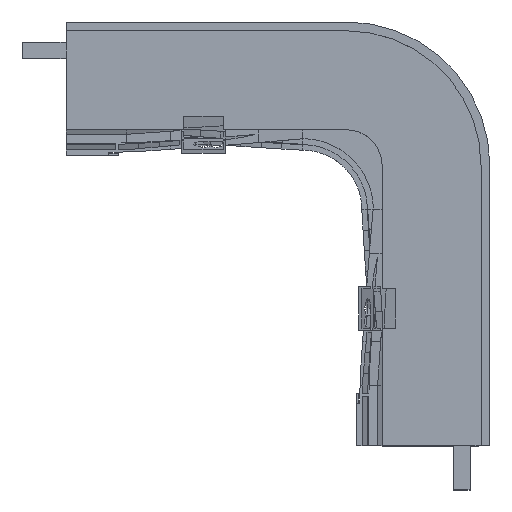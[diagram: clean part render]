
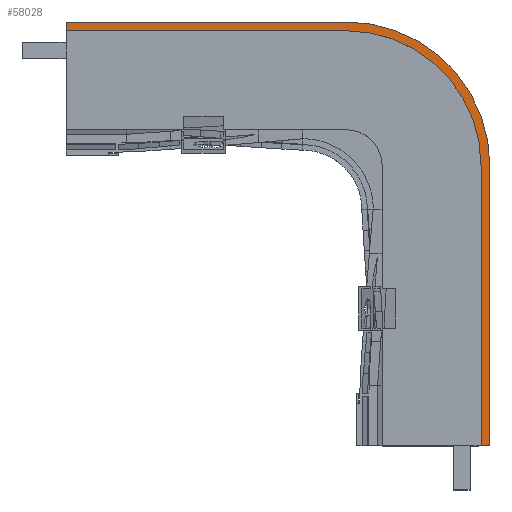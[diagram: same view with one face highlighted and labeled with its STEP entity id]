
A CAD part, top view. The second image highlights one B-rep face of the part: STEP entity #58028.
In plain terms, the highlighted planar face has unit normal (0, 0, 1).
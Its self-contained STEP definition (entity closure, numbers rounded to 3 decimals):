
#22 = VERTEX_POINT('',#23);
#23 = CARTESIAN_POINT('',(117.,178.1,32.5));
#32 = PLANE('',#33);
#33 = AXIS2_PLACEMENT_3D('',#34,#35,#36);
#34 = CARTESIAN_POINT('',(117.,101.,-1.));
#35 = DIRECTION('',(1.,0.,-0.));
#36 = DIRECTION('',(0.,0.,1.));
#44 = PLANE('',#45);
#45 = AXIS2_PLACEMENT_3D('',#46,#47,#48);
#46 = CARTESIAN_POINT('',(168.,178.1,28.));
#47 = DIRECTION('',(0.,-1.,0.));
#48 = DIRECTION('',(-1.,0.,0.));
#56 = EDGE_CURVE('',#22,#57,#59,.T.);
#57 = VERTEX_POINT('',#58);
#58 = CARTESIAN_POINT('',(117.,176.5,32.5));
#59 = SURFACE_CURVE('',#60,(#64,#71),.PCURVE_S1.);
#60 = LINE('',#61,#62);
#61 = CARTESIAN_POINT('',(117.,49.041,32.5));
#62 = VECTOR('',#63,1.);
#63 = DIRECTION('',(0.,-1.,0.));
#64 = PCURVE('',#32,#65);
#65 = DEFINITIONAL_REPRESENTATION('',(#66),#70);
#66 = LINE('',#67,#68);
#67 = CARTESIAN_POINT('',(33.5,51.959));
#68 = VECTOR('',#69,1.);
#69 = DIRECTION('',(0.,1.));
#70 = ( GEOMETRIC_REPRESENTATION_CONTEXT(2) 
PARAMETRIC_REPRESENTATION_CONTEXT() REPRESENTATION_CONTEXT('2D SPACE',''
  ) );
#71 = PCURVE('',#72,#77);
#72 = PLANE('',#73);
#73 = AXIS2_PLACEMENT_3D('',#74,#75,#76);
#74 = CARTESIAN_POINT('',(0.,-2.917,32.5));
#75 = DIRECTION('',(0.,0.,1.));
#76 = DIRECTION('',(1.,0.,-0.));
#77 = DEFINITIONAL_REPRESENTATION('',(#78),#82);
#78 = LINE('',#79,#80);
#79 = CARTESIAN_POINT('',(117.,51.959));
#80 = VECTOR('',#81,1.);
#81 = DIRECTION('',(0.,-1.));
#82 = ( GEOMETRIC_REPRESENTATION_CONTEXT(2) 
PARAMETRIC_REPRESENTATION_CONTEXT() REPRESENTATION_CONTEXT('2D SPACE',''
  ) );
#100 = PLANE('',#101);
#101 = AXIS2_PLACEMENT_3D('',#102,#103,#104);
#102 = CARTESIAN_POINT('',(168.,176.5,27.));
#103 = DIRECTION('',(0.,-1.,0.));
#104 = DIRECTION('',(-1.,0.,0.));
#1140 = CYLINDRICAL_SURFACE('',#1141,26.1);
#1141 = AXIS2_PLACEMENT_3D('',#1142,#1143,#1144);
#1142 = CARTESIAN_POINT('',(168.,152.,28.));
#1143 = DIRECTION('',(-0.,-0.,-1.));
#1144 = DIRECTION('',(1.,0.,-0.));
#1201 = PLANE('',#1202);
#1202 = AXIS2_PLACEMENT_3D('',#1203,#1204,#1205);
#1203 = CARTESIAN_POINT('',(117.,101.,-1.));
#1204 = DIRECTION('',(-0.,1.,0.));
#1205 = DIRECTION('',(0.,0.,1.));
#1254 = PLANE('',#1255);
#1255 = AXIS2_PLACEMENT_3D('',#1256,#1257,#1258);
#1256 = CARTESIAN_POINT('',(194.1,-178.1,28.));
#1257 = DIRECTION('',(-1.,0.,0.));
#1258 = DIRECTION('',(0.,1.,0.));
#1271 = VERTEX_POINT('',#1272);
#1272 = CARTESIAN_POINT('',(194.1,101.,32.5));
#1293 = EDGE_CURVE('',#1271,#1294,#1296,.T.);
#1294 = VERTEX_POINT('',#1295);
#1295 = CARTESIAN_POINT('',(194.1,152.,32.5));
#1296 = SURFACE_CURVE('',#1297,(#1301,#1308),.PCURVE_S1.);
#1297 = LINE('',#1298,#1299);
#1298 = CARTESIAN_POINT('',(194.1,-178.1,32.5));
#1299 = VECTOR('',#1300,1.);
#1300 = DIRECTION('',(0.,1.,0.));
#1301 = PCURVE('',#1254,#1302);
#1302 = DEFINITIONAL_REPRESENTATION('',(#1303),#1307);
#1303 = LINE('',#1304,#1305);
#1304 = CARTESIAN_POINT('',(0.,-4.5));
#1305 = VECTOR('',#1306,1.);
#1306 = DIRECTION('',(1.,0.));
#1307 = ( GEOMETRIC_REPRESENTATION_CONTEXT(2) 
PARAMETRIC_REPRESENTATION_CONTEXT() REPRESENTATION_CONTEXT('2D SPACE',''
  ) );
#1308 = PCURVE('',#72,#1309);
#1309 = DEFINITIONAL_REPRESENTATION('',(#1310),#1314);
#1310 = LINE('',#1311,#1312);
#1311 = CARTESIAN_POINT('',(194.1,-175.183));
#1312 = VECTOR('',#1313,1.);
#1313 = DIRECTION('',(0.,1.));
#1314 = ( GEOMETRIC_REPRESENTATION_CONTEXT(2) 
PARAMETRIC_REPRESENTATION_CONTEXT() REPRESENTATION_CONTEXT('2D SPACE',''
  ) );
#1493 = VERTEX_POINT('',#1494);
#1494 = CARTESIAN_POINT('',(192.5,101.,32.5));
#1508 = PLANE('',#1509);
#1509 = AXIS2_PLACEMENT_3D('',#1510,#1511,#1512);
#1510 = CARTESIAN_POINT('',(192.5,-176.5,27.));
#1511 = DIRECTION('',(-1.,0.,0.));
#1512 = DIRECTION('',(0.,1.,0.));
#1520 = EDGE_CURVE('',#1493,#1271,#1521,.T.);
#1521 = SURFACE_CURVE('',#1522,(#1526,#1533),.PCURVE_S1.);
#1522 = LINE('',#1523,#1524);
#1523 = CARTESIAN_POINT('',(58.5,101.,32.5));
#1524 = VECTOR('',#1525,1.);
#1525 = DIRECTION('',(1.,0.,-0.));
#1526 = PCURVE('',#1201,#1527);
#1527 = DEFINITIONAL_REPRESENTATION('',(#1528),#1532);
#1528 = LINE('',#1529,#1530);
#1529 = CARTESIAN_POINT('',(33.5,-58.5));
#1530 = VECTOR('',#1531,1.);
#1531 = DIRECTION('',(0.,1.));
#1532 = ( GEOMETRIC_REPRESENTATION_CONTEXT(2) 
PARAMETRIC_REPRESENTATION_CONTEXT() REPRESENTATION_CONTEXT('2D SPACE',''
  ) );
#1533 = PCURVE('',#72,#1534);
#1534 = DEFINITIONAL_REPRESENTATION('',(#1535),#1539);
#1535 = LINE('',#1536,#1537);
#1536 = CARTESIAN_POINT('',(58.5,103.917));
#1537 = VECTOR('',#1538,1.);
#1538 = DIRECTION('',(1.,0.));
#1539 = ( GEOMETRIC_REPRESENTATION_CONTEXT(2) 
PARAMETRIC_REPRESENTATION_CONTEXT() REPRESENTATION_CONTEXT('2D SPACE',''
  ) );
#56417 = VERTEX_POINT('',#56418);
#56418 = CARTESIAN_POINT('',(192.5,152.,32.5));
#56432 = CYLINDRICAL_SURFACE('',#56433,24.5);
#56433 = AXIS2_PLACEMENT_3D('',#56434,#56435,#56436);
#56434 = CARTESIAN_POINT('',(168.,152.,27.));
#56435 = DIRECTION('',(-0.,-0.,-1.));
#56436 = DIRECTION('',(1.,0.,-0.));
#56466 = EDGE_CURVE('',#56417,#1493,#56467,.T.);
#56467 = SURFACE_CURVE('',#56468,(#56472,#56479),.PCURVE_S1.);
#56468 = LINE('',#56469,#56470);
#56469 = CARTESIAN_POINT('',(192.5,-89.709,32.5));
#56470 = VECTOR('',#56471,1.);
#56471 = DIRECTION('',(0.,-1.,0.));
#56472 = PCURVE('',#1508,#56473);
#56473 = DEFINITIONAL_REPRESENTATION('',(#56474),#56478);
#56474 = LINE('',#56475,#56476);
#56475 = CARTESIAN_POINT('',(86.791,-5.5));
#56476 = VECTOR('',#56477,1.);
#56477 = DIRECTION('',(-1.,0.));
#56478 = ( GEOMETRIC_REPRESENTATION_CONTEXT(2) 
PARAMETRIC_REPRESENTATION_CONTEXT() REPRESENTATION_CONTEXT('2D SPACE',''
  ) );
#56479 = PCURVE('',#72,#56480);
#56480 = DEFINITIONAL_REPRESENTATION('',(#56481),#56485);
#56481 = LINE('',#56482,#56483);
#56482 = CARTESIAN_POINT('',(192.5,-86.791));
#56483 = VECTOR('',#56484,1.);
#56484 = DIRECTION('',(0.,-1.));
#56485 = ( GEOMETRIC_REPRESENTATION_CONTEXT(2) 
PARAMETRIC_REPRESENTATION_CONTEXT() REPRESENTATION_CONTEXT('2D SPACE',''
  ) );
#56490 = EDGE_CURVE('',#56491,#56417,#56493,.T.);
#56491 = VERTEX_POINT('',#56492);
#56492 = CARTESIAN_POINT('',(168.,176.5,32.5));
#56493 = SURFACE_CURVE('',#56494,(#56499,#56506),.PCURVE_S1.);
#56494 = CIRCLE('',#56495,24.5);
#56495 = AXIS2_PLACEMENT_3D('',#56496,#56497,#56498);
#56496 = CARTESIAN_POINT('',(168.,152.,32.5));
#56497 = DIRECTION('',(0.,0.,-1.));
#56498 = DIRECTION('',(1.,0.,0.));
#56499 = PCURVE('',#56432,#56500);
#56500 = DEFINITIONAL_REPRESENTATION('',(#56501),#56505);
#56501 = LINE('',#56502,#56503);
#56502 = CARTESIAN_POINT('',(0.,-5.5));
#56503 = VECTOR('',#56504,1.);
#56504 = DIRECTION('',(1.,-0.));
#56505 = ( GEOMETRIC_REPRESENTATION_CONTEXT(2) 
PARAMETRIC_REPRESENTATION_CONTEXT() REPRESENTATION_CONTEXT('2D SPACE',''
  ) );
#56506 = PCURVE('',#72,#56507);
#56507 = DEFINITIONAL_REPRESENTATION('',(#56508),#56516);
#56508 = ( BOUNDED_CURVE() B_SPLINE_CURVE(2,(#56509,#56510,#56511,#56512
    ,#56513,#56514,#56515),.UNSPECIFIED.,.T.,.F.) 
B_SPLINE_CURVE_WITH_KNOTS((1,2,2,2,2,1),(-2.094,0.,
    2.094,4.189,6.283,8.378),
.UNSPECIFIED.) CURVE() GEOMETRIC_REPRESENTATION_ITEM() 
RATIONAL_B_SPLINE_CURVE((1.,0.5,1.,0.5,1.,0.5,1.)) REPRESENTATION_ITEM(
  '') );
#56509 = CARTESIAN_POINT('',(192.5,154.917));
#56510 = CARTESIAN_POINT('',(192.5,112.482));
#56511 = CARTESIAN_POINT('',(155.75,133.7));
#56512 = CARTESIAN_POINT('',(119.,154.917));
#56513 = CARTESIAN_POINT('',(155.75,176.135));
#56514 = CARTESIAN_POINT('',(192.5,197.352));
#56515 = CARTESIAN_POINT('',(192.5,154.917));
#56516 = ( GEOMETRIC_REPRESENTATION_CONTEXT(2) 
PARAMETRIC_REPRESENTATION_CONTEXT() REPRESENTATION_CONTEXT('2D SPACE',''
  ) );
#56631 = VERTEX_POINT('',#56632);
#56632 = CARTESIAN_POINT('',(168.,178.1,32.5));
#56653 = EDGE_CURVE('',#1294,#56631,#56654,.T.);
#56654 = SURFACE_CURVE('',#56655,(#56660,#56667),.PCURVE_S1.);
#56655 = CIRCLE('',#56656,26.1);
#56656 = AXIS2_PLACEMENT_3D('',#56657,#56658,#56659);
#56657 = CARTESIAN_POINT('',(168.,152.,32.5));
#56658 = DIRECTION('',(0.,0.,1.));
#56659 = DIRECTION('',(1.,0.,-0.));
#56660 = PCURVE('',#1140,#56661);
#56661 = DEFINITIONAL_REPRESENTATION('',(#56662),#56666);
#56662 = LINE('',#56663,#56664);
#56663 = CARTESIAN_POINT('',(6.283,-4.5));
#56664 = VECTOR('',#56665,1.);
#56665 = DIRECTION('',(-1.,0.));
#56666 = ( GEOMETRIC_REPRESENTATION_CONTEXT(2) 
PARAMETRIC_REPRESENTATION_CONTEXT() REPRESENTATION_CONTEXT('2D SPACE',''
  ) );
#56667 = PCURVE('',#72,#56668);
#56668 = DEFINITIONAL_REPRESENTATION('',(#56669),#56673);
#56669 = CIRCLE('',#56670,26.1);
#56670 = AXIS2_PLACEMENT_2D('',#56671,#56672);
#56671 = CARTESIAN_POINT('',(168.,154.917));
#56672 = DIRECTION('',(1.,0.));
#56673 = ( GEOMETRIC_REPRESENTATION_CONTEXT(2) 
PARAMETRIC_REPRESENTATION_CONTEXT() REPRESENTATION_CONTEXT('2D SPACE',''
  ) );
#58008 = EDGE_CURVE('',#57,#56491,#58009,.T.);
#58009 = SURFACE_CURVE('',#58010,(#58014,#58021),.PCURVE_S1.);
#58010 = LINE('',#58011,#58012);
#58011 = CARTESIAN_POINT('',(84.,176.5,32.5));
#58012 = VECTOR('',#58013,1.);
#58013 = DIRECTION('',(1.,0.,-0.));
#58014 = PCURVE('',#100,#58015);
#58015 = DEFINITIONAL_REPRESENTATION('',(#58016),#58020);
#58016 = LINE('',#58017,#58018);
#58017 = CARTESIAN_POINT('',(84.,-5.5));
#58018 = VECTOR('',#58019,1.);
#58019 = DIRECTION('',(-1.,0.));
#58020 = ( GEOMETRIC_REPRESENTATION_CONTEXT(2) 
PARAMETRIC_REPRESENTATION_CONTEXT() REPRESENTATION_CONTEXT('2D SPACE',''
  ) );
#58021 = PCURVE('',#72,#58022);
#58022 = DEFINITIONAL_REPRESENTATION('',(#58023),#58027);
#58023 = LINE('',#58024,#58025);
#58024 = CARTESIAN_POINT('',(84.,179.417));
#58025 = VECTOR('',#58026,1.);
#58026 = DIRECTION('',(1.,0.));
#58027 = ( GEOMETRIC_REPRESENTATION_CONTEXT(2) 
PARAMETRIC_REPRESENTATION_CONTEXT() REPRESENTATION_CONTEXT('2D SPACE',''
  ) );
#58028 = ADVANCED_FACE('',(#58029),#72,.T.);
#58029 = FACE_BOUND('',#58030,.T.);
#58030 = EDGE_LOOP('',(#58031,#58032,#58033,#58034,#58055,#58056,#58057,
    #58058));
#58031 = ORIENTED_EDGE('',*,*,#1520,.T.);
#58032 = ORIENTED_EDGE('',*,*,#1293,.T.);
#58033 = ORIENTED_EDGE('',*,*,#56653,.T.);
#58034 = ORIENTED_EDGE('',*,*,#58035,.T.);
#58035 = EDGE_CURVE('',#56631,#22,#58036,.T.);
#58036 = SURFACE_CURVE('',#58037,(#58041,#58048),.PCURVE_S1.);
#58037 = LINE('',#58038,#58039);
#58038 = CARTESIAN_POINT('',(168.,178.1,32.5));
#58039 = VECTOR('',#58040,1.);
#58040 = DIRECTION('',(-1.,0.,0.));
#58041 = PCURVE('',#72,#58042);
#58042 = DEFINITIONAL_REPRESENTATION('',(#58043),#58047);
#58043 = LINE('',#58044,#58045);
#58044 = CARTESIAN_POINT('',(168.,181.017));
#58045 = VECTOR('',#58046,1.);
#58046 = DIRECTION('',(-1.,0.));
#58047 = ( GEOMETRIC_REPRESENTATION_CONTEXT(2) 
PARAMETRIC_REPRESENTATION_CONTEXT() REPRESENTATION_CONTEXT('2D SPACE',''
  ) );
#58048 = PCURVE('',#44,#58049);
#58049 = DEFINITIONAL_REPRESENTATION('',(#58050),#58054);
#58050 = LINE('',#58051,#58052);
#58051 = CARTESIAN_POINT('',(0.,-4.5));
#58052 = VECTOR('',#58053,1.);
#58053 = DIRECTION('',(1.,0.));
#58054 = ( GEOMETRIC_REPRESENTATION_CONTEXT(2) 
PARAMETRIC_REPRESENTATION_CONTEXT() REPRESENTATION_CONTEXT('2D SPACE',''
  ) );
#58055 = ORIENTED_EDGE('',*,*,#56,.T.);
#58056 = ORIENTED_EDGE('',*,*,#58008,.T.);
#58057 = ORIENTED_EDGE('',*,*,#56490,.T.);
#58058 = ORIENTED_EDGE('',*,*,#56466,.T.);
